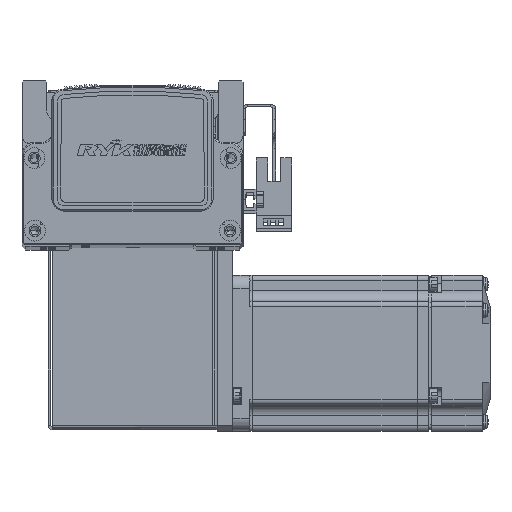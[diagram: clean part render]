
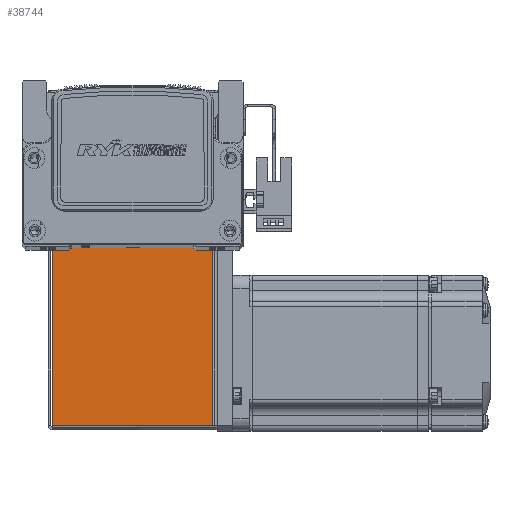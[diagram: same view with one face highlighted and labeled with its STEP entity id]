
A CAD part, top view. The second image highlights one B-rep face of the part: STEP entity #38744.
In plain terms, the highlighted planar face has unit normal (0, 0, 1).
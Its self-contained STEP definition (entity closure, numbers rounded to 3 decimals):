
#5990 = EDGE_LOOP ( 'NONE', ( #51521, #51692, #51585, #51514 ) ) ;
#10844 = CARTESIAN_POINT ( 'NONE',  ( -32.5, 0.737, 35. ) ) ;
#10856 = DIRECTION ( 'NONE',  ( -1., 0., 0. ) ) ;
#10870 = DIRECTION ( 'NONE',  ( 0., 1., 0. ) ) ;
#10881 = CARTESIAN_POINT ( 'NONE',  ( -30.793, 0., 35. ) ) ;
#10936 = DIRECTION ( 'NONE',  ( 0., 1., 0. ) ) ;
#10944 = CARTESIAN_POINT ( 'NONE',  ( 30.763, 0.737, 35. ) ) ;
#18169 = EDGE_CURVE ( 'NONE', #30986, #31078, #31805, .T. ) ;
#18192 = EDGE_CURVE ( 'NONE', #31078, #31044, #31833, .T. ) ;
#18217 = EDGE_CURVE ( 'NONE', #30986, #31004, #31868, .T. ) ;
#27549 = EDGE_CURVE ( 'NONE', #31004, #31044, #55833, .T. ) ;
#30986 = VERTEX_POINT ( 'NONE', #32828 ) ;
#31004 = VERTEX_POINT ( 'NONE', #32862 ) ;
#31044 = VERTEX_POINT ( 'NONE', #32899 ) ;
#31078 = VERTEX_POINT ( 'NONE', #32998 ) ;
#31805 = LINE ( 'NONE', #10844, #31834 ) ;
#31830 = VECTOR ( 'NONE', #10870, 1000. ) ;
#31833 = LINE ( 'NONE', #10881, #31830 ) ;
#31834 = VECTOR ( 'NONE', #10856, 1000. ) ;
#31868 = LINE ( 'NONE', #10944, #31927 ) ;
#31927 = VECTOR ( 'NONE', #10936, 1000. ) ;
#32828 = CARTESIAN_POINT ( 'NONE',  ( 30.763, 0.737, 35. ) ) ;
#32862 = CARTESIAN_POINT ( 'NONE',  ( 30.763, 72.5, 35. ) ) ;
#32899 = CARTESIAN_POINT ( 'NONE',  ( -30.793, 72.5, 35. ) ) ;
#32998 = CARTESIAN_POINT ( 'NONE',  ( -30.793, 0.737, 35. ) ) ;
#35345 = CARTESIAN_POINT ( 'NONE',  ( 0., 72.5, 35. ) ) ;
#35420 = DIRECTION ( 'NONE',  ( -1., 0., 0. ) ) ;
#36184 = AXIS2_PLACEMENT_3D ( 'NONE', #72533, #72526, #72518 ) ;
#38744 = ADVANCED_FACE ( 'NONE', ( #41666 ), #72517, .F. ) ;
#41666 = FACE_OUTER_BOUND ( 'NONE', #5990, .T. ) ;
#51514 = ORIENTED_EDGE ( 'NONE', *, *, #18169, .F. ) ;
#51521 = ORIENTED_EDGE ( 'NONE', *, *, #18217, .T. ) ;
#51585 = ORIENTED_EDGE ( 'NONE', *, *, #18192, .F. ) ;
#51692 = ORIENTED_EDGE ( 'NONE', *, *, #27549, .T. ) ;
#55766 = VECTOR ( 'NONE', #35420, 1000. ) ;
#55833 = LINE ( 'NONE', #35345, #55766 ) ;
#72517 = PLANE ( 'NONE',  #36184 ) ;
#72518 = DIRECTION ( 'NONE',  ( -1., 0., 0. ) ) ;
#72526 = DIRECTION ( 'NONE',  ( 0., 0., -1. ) ) ;
#72533 = CARTESIAN_POINT ( 'NONE',  ( 0., 0., 35. ) ) ;
